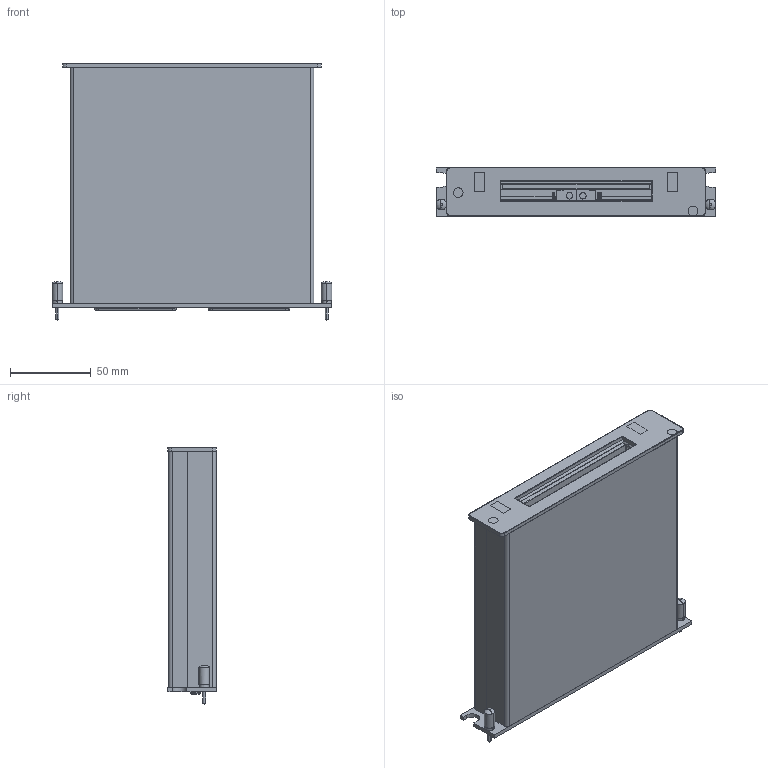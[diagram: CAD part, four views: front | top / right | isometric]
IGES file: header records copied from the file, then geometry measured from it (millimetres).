
Start section:  PTC IGES file: cu_tb-137x.igs
Global section: file name: cu_tb-137x.igs; native system: Pro/ENGINEER by Parametric Technology Corporation; preprocessor: 2010230; author: jjorden; organization: Unknown; date: 20110815.084239; units: inch
Bounding box: 173.53 x 30.18 x 159.73 mm (x, y, z)
Surface area: 148212.8 mm2 (no closed solid volume)
Topology: 0 solids, 0 shells, 1885 faces, 10422 edges, 10358 vertices
Faces by surface type: bspline 1378, revolution 506, extrusion 1
